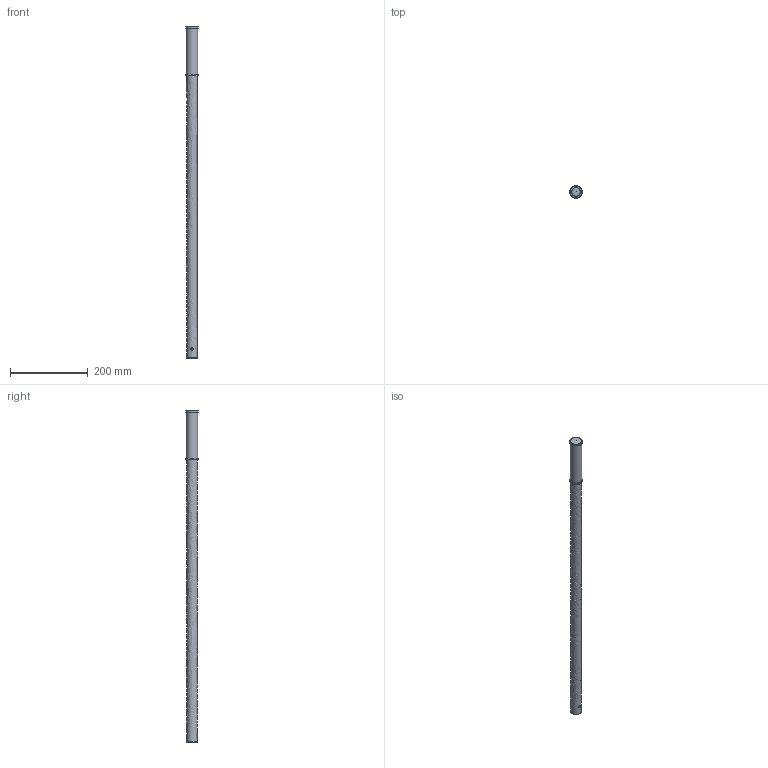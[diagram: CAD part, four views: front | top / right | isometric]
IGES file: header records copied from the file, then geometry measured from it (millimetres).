
Global section: file name: No Iges File Name specified; native system: Autodesk Inventor 2013; preprocessor: AutoDesk Inventor Iges Exporter R2013; author: christian.scardovi; date: 20240917.084207; units: millimetre
Bounding box: 31.98 x 32 x 853.4 mm (x, y, z)
Volume: 183318.3 mm3; surface area: 134300.5 mm2
Topology: 1 solids, 1 shells, 19 faces, 41 edges, 25 vertices
Faces by surface type: bspline 19
